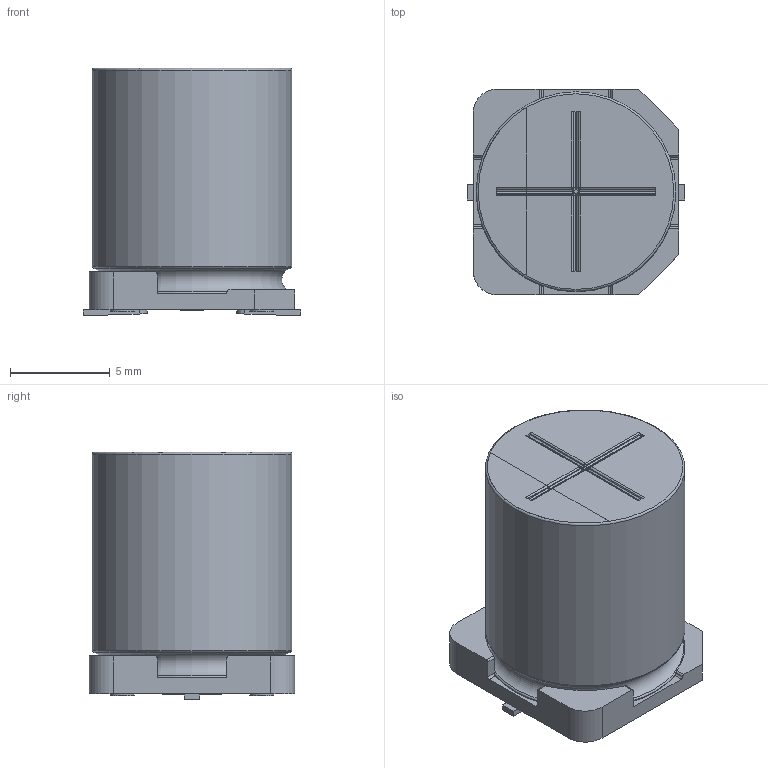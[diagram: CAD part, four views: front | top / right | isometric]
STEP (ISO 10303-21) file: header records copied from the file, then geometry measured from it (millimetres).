
FILE_DESCRIPTION(/* description */ (''),/* implementation_level */ '2;1');
FILE_NAME(/* name */ '10x12.4_Chip.stp',/* time_stamp */ '2017-09-04T19:32:53+09:00',/* author */ (''),/* organization */ (''),/* preprocessor_version */ 'ST-DEVELOPER v16',/* originating_system */ 'SIEMENS PLM Software NX 11.0',/* authorisation */ '');
FILE_SCHEMA (('AUTOMOTIVE_DESIGN { 1 0 10303 214 3 1 1 1 }'));
Length unit declared in the file: millimetre
Products named in the file (1): 10x12.4_Chip_0
Bounding box: 10.9 x 10.3 x 12.4 mm (x, y, z)
Volume: 970.4 mm3; surface area: 831 mm2
Topology: 5 solids, 5 shells, 134 faces, 336 edges, 214 vertices
Faces by surface type: plane 61, cylinder 61, torus 4, sphere 4, bspline 4
Full cylindrical faces by diameter (mm): 1.2 x4, 10 x2
Entity records: 4252 total; most frequent: CARTESIAN_POINT 925, DIRECTION 678, ORIENTED_EDGE 638, EDGE_CURVE 319, AXIS2_PLACEMENT_3D 244, VERTEX_POINT 211, LINE 190, VECTOR 190
